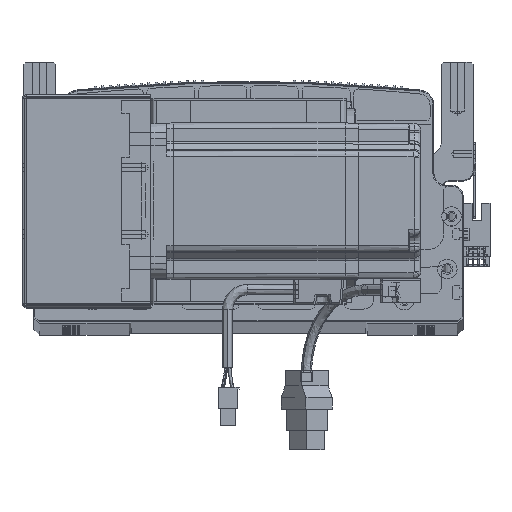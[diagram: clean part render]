
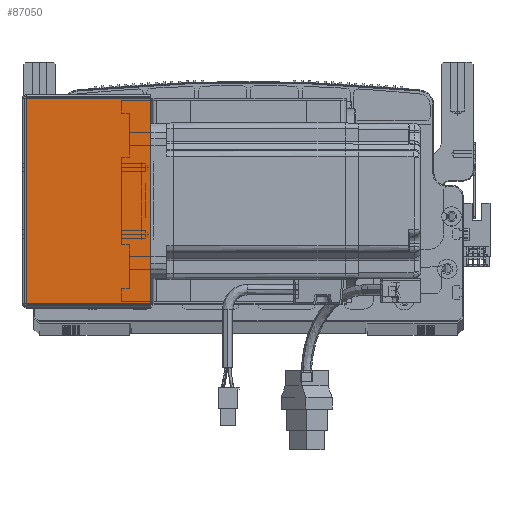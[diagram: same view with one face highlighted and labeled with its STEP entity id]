
A CAD part, top view. The second image highlights one B-rep face of the part: STEP entity #87050.
In plain terms, the highlighted planar face has unit normal (0, 0, 1) as drawn and (0, 0, -1) by its records, which use the part's own axes.
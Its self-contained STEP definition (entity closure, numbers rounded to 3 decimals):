
#665 = EDGE_CURVE ( 'NONE', #22896, #69011, #27044, .T. ) ;
#7703 = LINE ( 'NONE', #65821, #75979 ) ;
#13792 = VECTOR ( 'NONE', #51287, 1000. ) ;
#14819 = CARTESIAN_POINT ( 'NONE',  ( 0., 0.707, -205.5 ) ) ;
#18066 = CARTESIAN_POINT ( 'NONE',  ( 0.737, 105.293, -205.5 ) ) ;
#18669 = LINE ( 'NONE', #57782, #13792 ) ;
#22896 = VERTEX_POINT ( 'NONE', #56621 ) ;
#24163 = AXIS2_PLACEMENT_3D ( 'NONE', #96131, #34475, #73657 ) ;
#27044 = LINE ( 'NONE', #14819, #31962 ) ;
#28264 = CARTESIAN_POINT ( 'NONE',  ( 64.5, 0.707, -205.5 ) ) ;
#31962 = VECTOR ( 'NONE', #38045, 1000. ) ;
#34475 = DIRECTION ( 'NONE',  ( 0., 0., 1. ) ) ;
#36187 = ORIENTED_EDGE ( 'NONE', *, *, #665, .F. ) ;
#38045 = DIRECTION ( 'NONE',  ( 1., 0., 0. ) ) ;
#38085 = ORIENTED_EDGE ( 'NONE', *, *, #50232, .T. ) ;
#47271 = CARTESIAN_POINT ( 'NONE',  ( 64.5, 0., -205.5 ) ) ;
#48817 = VERTEX_POINT ( 'NONE', #18066 ) ;
#50232 = EDGE_CURVE ( 'NONE', #48817, #90459, #7703, .T. ) ;
#51287 = DIRECTION ( 'NONE',  ( 0., -1., 0. ) ) ;
#51906 = EDGE_CURVE ( 'NONE', #48817, #22896, #18669, .T. ) ;
#53293 = EDGE_LOOP ( 'NONE', ( #63392, #38085, #69266, #36187 ) ) ;
#56291 = FACE_OUTER_BOUND ( 'NONE', #53293, .T. ) ;
#56621 = CARTESIAN_POINT ( 'NONE',  ( 0.737, 0.707, -205.5 ) ) ;
#57782 = CARTESIAN_POINT ( 'NONE',  ( 0.737, 0., -205.5 ) ) ;
#59756 = LINE ( 'NONE', #47271, #62159 ) ;
#62159 = VECTOR ( 'NONE', #93559, 1000. ) ;
#63392 = ORIENTED_EDGE ( 'NONE', *, *, #51906, .F. ) ;
#65821 = CARTESIAN_POINT ( 'NONE',  ( 0., 105.293, -205.5 ) ) ;
#68309 = EDGE_CURVE ( 'NONE', #90459, #69011, #59756, .T. ) ;
#69011 = VERTEX_POINT ( 'NONE', #28264 ) ;
#69266 = ORIENTED_EDGE ( 'NONE', *, *, #68309, .T. ) ;
#73657 = DIRECTION ( 'NONE',  ( 1., 0., 0. ) ) ;
#75979 = VECTOR ( 'NONE', #80778, 1000. ) ;
#80778 = DIRECTION ( 'NONE',  ( 1., 0., 0. ) ) ;
#82242 = CARTESIAN_POINT ( 'NONE',  ( 64.5, 105.293, -205.5 ) ) ;
#87050 = ADVANCED_FACE ( 'NONE', ( #56291 ), #97140, .F. ) ;
#90459 = VERTEX_POINT ( 'NONE', #82242 ) ;
#93559 = DIRECTION ( 'NONE',  ( 0., -1., 0. ) ) ;
#96131 = CARTESIAN_POINT ( 'NONE',  ( 0., 0., -205.5 ) ) ;
#97140 = PLANE ( 'NONE',  #24163 ) ;
